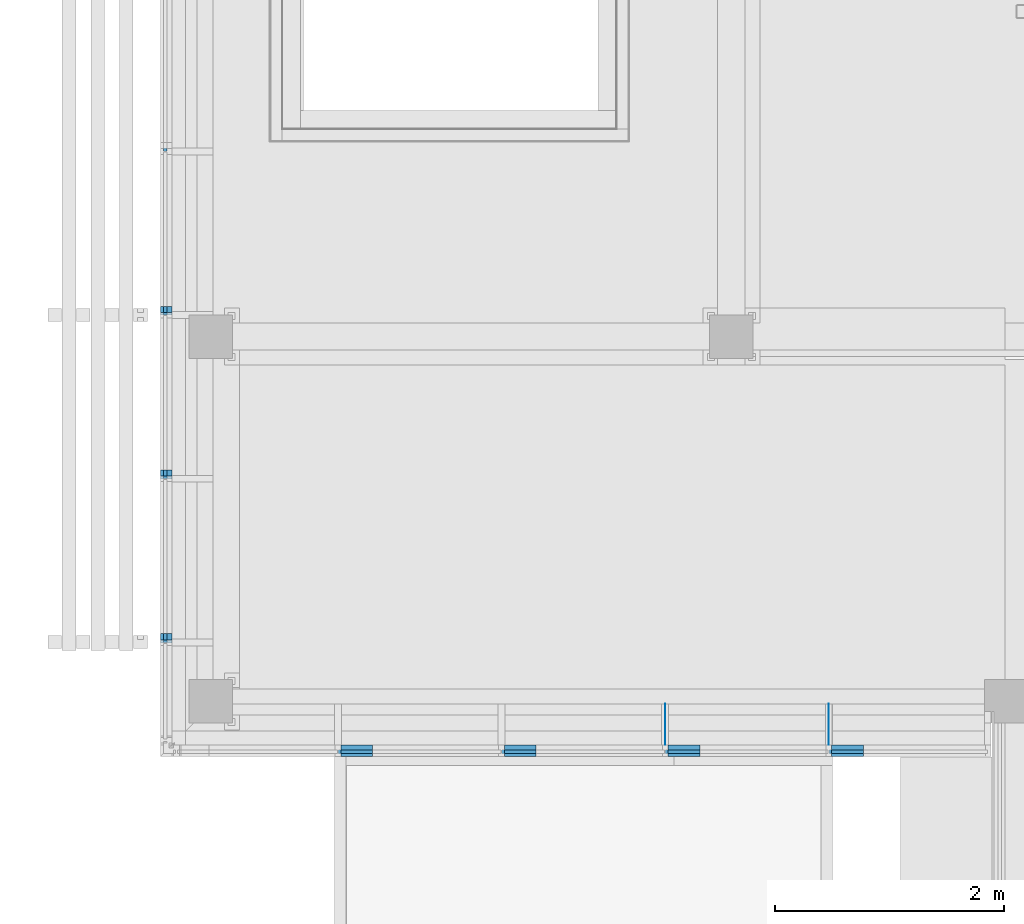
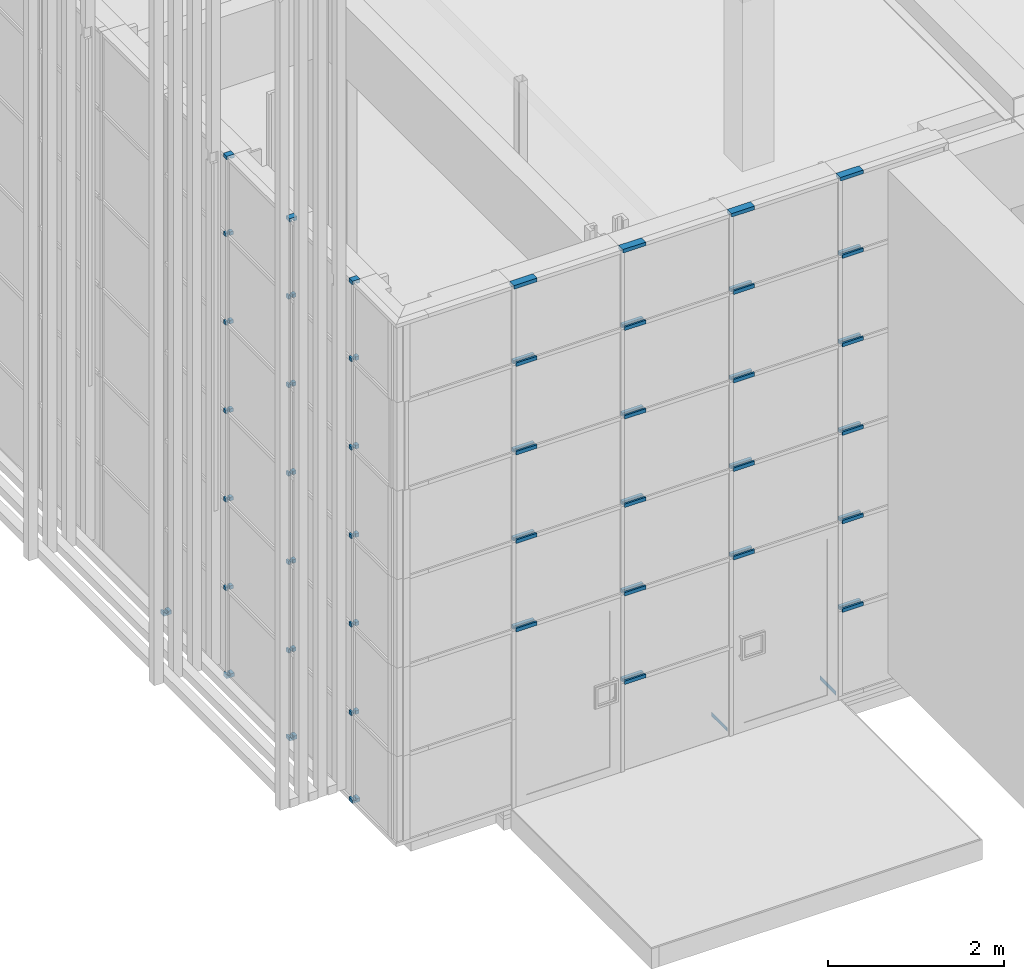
# One storey, part 41 of 260: 46 members, 2 elements without a shape of their own.
"""IFC2X3 building model written with IfcOpenShell, lengths in millimetres."""

from ifc_helpers import new_model, entity, si_unit, converted_unit, derived_unit, money_unit, direction, frame, origin_with_axes, place, context, subcontext, project, spatial, faceted_brep, source, transform, mapped, material, type_object, element, aggregate, save


model = new_model("IFC2X3")

# Units and contexts
model_context = context("Model", 3, precision=0.01, world=origin_with_axes(), true_north=direction((0.0, 1.0)))
body_context = subcontext(model_context, "Body", "Model", "MODEL_VIEW")
ifc_project = project(units=[si_unit("LENGTHUNIT", "METRE", prefix="MILLI"), si_unit("AREAUNIT", "SQUARE_METRE"), si_unit("VOLUMEUNIT", "CUBIC_METRE"), converted_unit("PLANEANGLEUNIT", "DEGREE", entity("IfcPlaneAngleMeasure", 0.0174532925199), si_unit("PLANEANGLEUNIT", "RADIAN"), dimensions=[0, 0, 0, 0, 0, 0, 0]), money_unit("EUR"), converted_unit("TIMEUNIT", "Year", entity("IfcTimeMeasure", 31556926.0), si_unit("TIMEUNIT", "SECOND"), dimensions=[0, 0, 1, 0, 0, 0, 0]), si_unit("MASSUNIT", "GRAM", prefix="KILO"), si_unit("THERMODYNAMICTEMPERATUREUNIT", "DEGREE_CELSIUS"), si_unit("LUMINOUSINTENSITYUNIT", "LUMEN"), si_unit("ENERGYUNIT", "JOULE", prefix="MEGA"), derived_unit("THERMALCONDUCTANCEUNIT", [(si_unit("POWERUNIT", "WATT"), 1), (si_unit("LENGTHUNIT", "METRE"), -1), (si_unit("THERMODYNAMICTEMPERATUREUNIT", "KELVIN"), -1)]), derived_unit("SPECIFICHEATCAPACITYUNIT", [(si_unit("ENERGYUNIT", "JOULE"), 1), (si_unit("MASSUNIT", "GRAM", prefix="KILO"), -1), (si_unit("THERMODYNAMICTEMPERATUREUNIT", "KELVIN"), -1)]), derived_unit("MASSDENSITYUNIT", [(si_unit("MASSUNIT", "GRAM", prefix="KILO"), 1), (si_unit("VOLUMEUNIT", "CUBIC_METRE"), -1)])], contexts=[model_context])

# Site, building, storey
site_placement = place(None, origin_with_axes())
site = spatial("IfcSite", under=ifc_project, at=site_placement, Name="Kolde pst 67a", CompositionType="ELEMENT")
building_placement = place(site_placement, origin_with_axes())
building = spatial("IfcBuilding", under=site, at=building_placement, Name="Riigigümnaasium", CompositionType="ELEMENT")
storey_placement = place(building_placement, origin_with_axes())
storey = spatial("IfcBuildingStorey", under=building, at=storey_placement, Name="1. korrus", CompositionType="ELEMENT", Elevation=0.0)

# Curtain wall, members
curtain_wall_type = type_object("IfcCurtainWallType", Name="Curtain Wall Type", PredefinedType="NOTDEFINED")
curtain_wall_1_placement = place(storey_placement, frame((47829.9854655, 8727.77020058, -0.000749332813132), z_axis=(0.0, 0.0, 1.0), x_axis=(1.0, 0.0, 0.0)))
curtain_wall_1 = element("IfcCurtainWall", 1, at=curtain_wall_1_placement, inside=storey, type_object=curtain_wall_type, Name="KLAASFASSAAD")
ifc_material_1 = material(Name="_METALL - alumiinium")
member_type_1 = type_object("IfcMemberType", Name="Transom Frame 50 x 100", PredefinedType="MEMBER")
shared_shape_1 = source(origin_with_axes(), body_context, "Body", "Brep", [
    faceted_brep([(5.0, -16.5, 80.8692382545), (5.0, 16.5, 80.8692382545), (25.0, 16.5, 80.8692382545), (25.0, 40.0, 80.8692382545), (-25.0, 40.0, 80.8692382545), (-25.0, 16.5, 80.8692382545), (-5.0, 16.5, 80.8692382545), (-5.0, -16.5, 80.8692382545), (-25.0, -16.5, 80.8692382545), (-25.0, -60.0, 80.8692382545), (25.0, -60.0, 80.8692382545), (25.0, -16.5, 80.8692382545), (5.0, -16.5, 25.0000000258), (5.0, 16.5, 24.9999999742), (25.0, 16.5, 24.9999999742), (25.0, 40.0, 24.9999999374), (-25.0, 40.0, 24.9999999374), (-25.0, 16.5, 24.9999999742), (-5.0, 16.5, 24.9999999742), (-5.0, -16.5, 25.0000000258), (-25.0, -16.5, 25.0000000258), (-25.0, -60.0, 25.0000000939), (25.0, -60.0, 25.0000000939), (25.0, -16.5, 25.0000000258)], [[[0, 1, 2, 3, 4, 5, 6, 7, 8, 9, 10, 11]], [[0, 12, 13, 1]], [[1, 13, 14, 2]], [[14, 15, 3, 2]], [[4, 3, 15, 16]], [[17, 5, 4, 16]], [[5, 17, 18, 6]], [[7, 6, 18, 19]], [[8, 7, 19, 20]], [[8, 20, 21, 9]], [[10, 9, 21, 22]], [[11, 10, 22, 23]], [[11, 23, 12, 0]], [[13, 12, 23, 22, 21, 20, 19, 18, 17, 16, 15, 14]]]),
])
member_1_placement = place(curtain_wall_1_placement, frame((4.6019721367e-07, -504.830153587, 3690.00074933), z_axis=(-9.11580353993e-10, 1.0, 0.0), x_axis=(0.0, 0.0, 1.0)))
member_1 = element("IfcMember", 2, at=member_1_placement, type_object=member_type_1, material=ifc_material_1, Name="RF RAAM HOR-760", ObjectType="MEMBER", context=body_context, shape_type="MappedRepresentation", body=[
    mapped(shared_shape_1, transform((0.0, 0.0, 0.0), x_axis=(-1.0, 0.0, 0.0), y_axis=(0.0, -1.0, 9.11580231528e-10), z_axis=(0.0, 9.11580231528e-10, 1.0))),
])
member_2_placement = place(curtain_wall_1_placement, frame((4.6019721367e-07, -504.83015347, 2460.00074933), z_axis=(-9.11580355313e-10, 1.0, 0.0), x_axis=(0.0, 0.0, 1.0)))
member_2 = element("IfcMember", 3, at=member_2_placement, type_object=member_type_1, material=ifc_material_1, Name="RF RAAM HOR-669", ObjectType="MEMBER", context=body_context, shape_type="MappedRepresentation", body=[
    mapped(shared_shape_1, transform((0.0, 0.0, 0.0), x_axis=(-1.0, 0.0, 0.0), y_axis=(0.0, -1.0, 9.11580232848e-10), z_axis=(0.0, 9.11580232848e-10, 1.0))),
])
member_3_placement = place(curtain_wall_1_placement, frame((4.6019721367e-07, -504.83015347, 1230.00074933), z_axis=(-9.11580355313e-10, 1.0, 0.0), x_axis=(0.0, 0.0, 1.0)))
member_3 = element("IfcMember", 4, at=member_3_placement, type_object=member_type_1, material=ifc_material_1, Name="RF RAAM HOR-669", ObjectType="MEMBER", context=body_context, shape_type="MappedRepresentation", body=[
    mapped(shared_shape_1, transform((0.0, 0.0, 0.0), x_axis=(-1.0, 0.0, 0.0), y_axis=(0.0, -1.0, 9.11580232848e-10), z_axis=(0.0, 9.11580232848e-10, 1.0))),
])
member_4_placement = place(curtain_wall_1_placement, frame((4.6019721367e-07, -504.830155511, 4920.00074933), z_axis=(-9.11580332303e-10, 1.0, 0.0), x_axis=(0.0, 0.0, 1.0)))
member_4 = element("IfcMember", 5, at=member_4_placement, type_object=member_type_1, material=ifc_material_1, Name="RF RAAM HOR-711", ObjectType="MEMBER", context=body_context, shape_type="MappedRepresentation", body=[
    mapped(shared_shape_1, transform((0.0, 0.0, 0.0), x_axis=(-1.0, 0.0, 0.0), y_axis=(0.0, -1.0, 9.11580209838e-10), z_axis=(0.0, 9.11580209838e-10, 1.0))),
])
member_5_placement = place(curtain_wall_1_placement, frame((4.6019721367e-07, -504.830155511, 6150.00074933), z_axis=(-9.11580332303e-10, 1.0, 0.0), x_axis=(0.0, 0.0, 1.0)))
member_5 = element("IfcMember", 6, at=member_5_placement, type_object=member_type_1, material=ifc_material_1, Name="RF RAAM HOR-723", ObjectType="MEMBER", context=body_context, shape_type="MappedRepresentation", body=[
    mapped(shared_shape_1, transform((0.0, 0.0, 0.0), x_axis=(-1.0, 0.0, 0.0), y_axis=(0.0, -1.0, 9.11580209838e-10), z_axis=(0.0, 9.11580209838e-10, 1.0))),
])
member_type_2 = type_object("IfcMemberType", Name="Boundary Frame 50 x 100", PredefinedType="MEMBER")
shared_shape_2 = source(origin_with_axes(), body_context, "Body", "Brep", [
    faceted_brep([(-30.0, -16.5, 80.8692386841), (-50.0, -16.5, 80.8692386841), (-50.0, -60.0, 80.8692386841), (0.0, -60.0, 80.8692386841), (0.0, 40.0, 80.8692386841), (-50.0, 40.0, 80.8692386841), (-50.0, 16.5, 80.8692386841), (-30.0, 16.5, 80.8692386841), (-30.0, -16.5, 0.0), (-50.0, -16.5, 0.0), (-50.0, -60.0, 0.0), (0.0, -60.0, 0.0), (0.0, 40.0, 0.0), (-50.0, 40.0, 0.0), (-50.0, 16.5, 0.0), (-30.0, 16.5, 0.0)], [[[0, 1, 2, 3, 4, 5, 6, 7]], [[0, 8, 9, 1]], [[9, 10, 2, 1]], [[10, 11, 3, 2]], [[11, 12, 4, 3]], [[12, 13, 5, 4]], [[6, 5, 13, 14]], [[14, 15, 7, 6]], [[7, 15, 8, 0]], [[8, 15, 14, 13, 12, 11, 10, 9]]]),
])
member_6_placement = place(curtain_wall_1_placement, frame((4.6019721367e-07, -504.830154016, 0.0), z_axis=(-9.1158034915e-10, 1.0, 0.0), x_axis=(0.0, 0.0, 1.0)))
member_6 = element("IfcMember", 7, at=member_6_placement, type_object=member_type_2, material=ifc_material_1, Name="RF RAAM SERV-553", ObjectType="MEMBER", context=body_context, shape_type="MappedRepresentation", body=[
    mapped(shared_shape_2, transform((0.0, 0.0, 0.0), x_axis=(-1.0, 0.0, 0.0), y_axis=(0.0, -1.0, 9.11580226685e-10), z_axis=(0.0, 9.11580226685e-10, 1.0))),
])
member_7_placement = place(curtain_wall_1_placement, frame((3.86478404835e-07, -423.960915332, 7259.99994321), z_axis=(9.11580373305e-10, -1.0, 0.0), x_axis=(0.0, 0.0, -1.0)))
member_7 = element("IfcMember", 8, at=member_7_placement, type_object=member_type_2, material=ifc_material_1, Name="RF RAAM SERV-582", ObjectType="MEMBER", context=body_context, shape_type="MappedRepresentation", body=[
    mapped(shared_shape_2, transform((0.0, 0.0, 0.0), x_axis=(-1.0, 0.0, 0.0), y_axis=(0.0, -1.0, -9.11580373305e-10), z_axis=(0.0, -9.11580373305e-10, 1.0))),
])
shared_shape_3 = source(origin_with_axes(), body_context, "Body", "Brep", [
    faceted_brep([(-30.0, -16.5, 77.2480145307), (-50.0, -16.5, 77.2480145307), (-50.0, -60.0, 77.2480145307), (0.0, -60.0, 77.2480145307), (0.0, 40.0, 77.2480145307), (-50.0, 40.0, 77.2480145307), (-50.0, 16.5, 77.2480145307), (-30.0, 16.5, 77.2480145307), (-30.0, -16.5, 0.0), (-50.0, -16.5, 0.0), (-50.0, -60.0, 0.0), (0.0, -60.0, 0.0), (0.0, 40.0, 0.0), (-50.0, 40.0, 0.0), (-50.0, 16.5, 0.0), (-30.0, 16.5, 0.0)], [[[0, 1, 2, 3, 4, 5, 6, 7]], [[0, 8, 9, 1]], [[9, 10, 2, 1]], [[10, 11, 3, 2]], [[11, 12, 4, 3]], [[12, 13, 5, 4]], [[6, 5, 13, 14]], [[14, 15, 7, 6]], [[7, 15, 8, 0]], [[8, 15, 14, 13, 12, 11, 10, 9]]]),
])
member_8_placement = place(curtain_wall_1_placement, frame((-8.46711145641e-07, 928.791070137, 0.0), z_axis=(-9.1163366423e-10, 1.0, 0.0), x_axis=(0.0, 0.0, 1.0)))
member_8 = element("IfcMember", 9, at=member_8_placement, type_object=member_type_2, material=ifc_material_1, Name="RF RAAM SERV-554", ObjectType="MEMBER", context=body_context, shape_type="MappedRepresentation", body=[
    mapped(shared_shape_3, transform((0.0, 0.0, 0.0), x_axis=(-1.0, 0.0, 0.0), y_axis=(0.0, -1.0, 9.11633541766e-10), z_axis=(0.0, 9.11633541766e-10, 1.0))),
])
member_9_placement = place(curtain_wall_1_placement, frame((-2.15032258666e-06, 2358.79108085, 0.0), z_axis=(-9.11633790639e-10, 1.0, 0.0), x_axis=(0.0, 0.0, 1.0)))
member_9 = element("IfcMember", 10, at=member_9_placement, type_object=member_type_2, material=ifc_material_1, Name="RF RAAM SERV-555", ObjectType="MEMBER", context=body_context, shape_type="MappedRepresentation", body=[
    mapped(shared_shape_3, transform((0.0, 0.0, 0.0), x_axis=(-1.0, 0.0, 0.0), y_axis=(0.0, -1.0, 9.11633668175e-10), z_axis=(0.0, 9.11633668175e-10, 1.0))),
])
member_10_placement = place(curtain_wall_1_placement, frame((-3.45392692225e-06, 3788.79107025, 0.0), z_axis=(-9.11633665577e-10, 1.0, 0.0), x_axis=(0.0, 0.0, 1.0)))
member_10 = element("IfcMember", 11, at=member_10_placement, type_object=member_type_2, material=ifc_material_1, Name="RF RAAM SERV-556", ObjectType="MEMBER", context=body_context, shape_type="MappedRepresentation", body=[
    mapped(shared_shape_3, transform((0.0, 0.0, 0.0), x_axis=(-1.0, 0.0, 0.0), y_axis=(0.0, -1.0, 9.11633543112e-10), z_axis=(0.0, 9.11633543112e-10, 1.0))),
])
member_11_placement = place(curtain_wall_1_placement, frame((-2.2207444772e-06, 2436.03908467, 7259.99994321), z_axis=(9.11633789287e-10, -1.0, 0.0), x_axis=(0.0, 0.0, -1.0)))
member_11 = element("IfcMember", 12, at=member_11_placement, type_object=member_type_2, material=ifc_material_1, Name="RF RAAM SERV-580", ObjectType="MEMBER", context=body_context, shape_type="MappedRepresentation", body=[
    mapped(shared_shape_3, transform((0.0, 0.0, 0.0), x_axis=(-1.0, 0.0, 0.0), y_axis=(0.0, -1.0, -9.11633789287e-10), z_axis=(0.0, -9.11633789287e-10, 1.0))),
])
member_12_placement = place(curtain_wall_1_placement, frame((-9.17133036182e-07, 1006.03908467, 7259.99994321), z_axis=(9.11633664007e-10, -1.0, 0.0), x_axis=(0.0, 0.0, -1.0)))
member_12 = element("IfcMember", 13, at=member_12_placement, type_object=member_type_2, material=ifc_material_1, Name="RF RAAM SERV-581", ObjectType="MEMBER", context=body_context, shape_type="MappedRepresentation", body=[
    mapped(shared_shape_3, transform((0.0, 0.0, 0.0), x_axis=(-1.0, 0.0, 0.0), y_axis=(0.0, -1.0, -9.11633664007e-10), z_axis=(0.0, -9.11633664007e-10, 1.0))),
])
shared_shape_4 = source(origin_with_axes(), body_context, "Body", "Brep", [
    faceted_brep([(5.0, -16.5, 77.2480166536), (5.0, 16.5, 77.2480166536), (25.0, 16.5, 77.2480166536), (25.0, 40.0, 77.2480166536), (-25.0, 40.0, 77.2480166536), (-25.0, 16.5, 77.2480166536), (-5.0, 16.5, 77.2480166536), (-5.0, -16.5, 77.2480166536), (-25.0, -16.5, 77.2480166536), (-25.0, -60.0, 77.2480166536), (25.0, -60.0, 77.2480166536), (25.0, -16.5, 77.2480166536), (5.0, -16.5, 25.0), (5.0, 16.5, 25.0), (25.0, 16.5, 25.0), (25.0, 40.0, 25.0), (-25.0, 40.0, 25.0), (-25.0, 16.5, 25.0), (-5.0, 16.5, 25.0), (-5.0, -16.5, 25.0), (-25.0, -16.5, 25.0), (-25.0, -60.0, 25.0), (25.0, -60.0, 25.0), (25.0, -16.5, 25.0)], [[[0, 1, 2, 3, 4, 5, 6, 7, 8, 9, 10, 11]], [[0, 12, 13, 1]], [[1, 13, 14, 2]], [[14, 15, 3, 2]], [[4, 3, 15, 16]], [[17, 5, 4, 16]], [[5, 17, 18, 6]], [[7, 6, 18, 19]], [[8, 7, 19, 20]], [[8, 20, 21, 9]], [[10, 9, 21, 22]], [[11, 10, 22, 23]], [[11, 23, 12, 0]], [[13, 12, 23, 22, 21, 20, 19, 18, 17, 16, 15, 14]]]),
])
member_13_placement = place(curtain_wall_1_placement, frame((-8.46711145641e-07, 928.791068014, 1230.00074933), z_axis=(-9.11633639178e-10, 1.0, 0.0), x_axis=(0.0, 0.0, 1.0)))
member_13 = element("IfcMember", 14, at=member_13_placement, type_object=member_type_1, material=ifc_material_1, Name="RF RAAM HOR-669", ObjectType="MEMBER", context=body_context, shape_type="MappedRepresentation", body=[
    mapped(shared_shape_4, transform((0.0, 0.0, 0.0), x_axis=(-1.0, 0.0, 0.0), y_axis=(0.0, -1.0, 9.11633516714e-10), z_axis=(0.0, 9.11633516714e-10, 1.0))),
])
member_14_placement = place(curtain_wall_1_placement, frame((-2.15032258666e-06, 2358.79106801, 1230.00074933), z_axis=(-9.11633639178e-10, 1.0, 0.0), x_axis=(0.0, 0.0, 1.0)))
member_14 = element("IfcMember", 15, at=member_14_placement, type_object=member_type_1, material=ifc_material_1, Name="RF RAAM HOR-669", ObjectType="MEMBER", context=body_context, shape_type="MappedRepresentation", body=[
    mapped(shared_shape_4, transform((0.0, 0.0, 0.0), x_axis=(-1.0, 0.0, 0.0), y_axis=(0.0, -1.0, 9.11633516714e-10), z_axis=(0.0, 9.11633516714e-10, 1.0))),
])
member_15_placement = place(curtain_wall_1_placement, frame((-8.46711145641e-07, 928.791068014, 2460.00074933), z_axis=(-9.11633639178e-10, 1.0, 0.0), x_axis=(0.0, 0.0, 1.0)))
member_15 = element("IfcMember", 16, at=member_15_placement, type_object=member_type_1, material=ifc_material_1, Name="RF RAAM HOR-669", ObjectType="MEMBER", context=body_context, shape_type="MappedRepresentation", body=[
    mapped(shared_shape_4, transform((0.0, 0.0, 0.0), x_axis=(-1.0, 0.0, 0.0), y_axis=(0.0, -1.0, 9.11633516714e-10), z_axis=(0.0, 9.11633516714e-10, 1.0))),
])
member_16_placement = place(curtain_wall_1_placement, frame((-2.15032258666e-06, 2358.79106801, 2460.00074933), z_axis=(-9.11633639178e-10, 1.0, 0.0), x_axis=(0.0, 0.0, 1.0)))
member_16 = element("IfcMember", 17, at=member_16_placement, type_object=member_type_1, material=ifc_material_1, Name="RF RAAM HOR-669", ObjectType="MEMBER", context=body_context, shape_type="MappedRepresentation", body=[
    mapped(shared_shape_4, transform((0.0, 0.0, 0.0), x_axis=(-1.0, 0.0, 0.0), y_axis=(0.0, -1.0, 9.11633516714e-10), z_axis=(0.0, 9.11633516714e-10, 1.0))),
])
member_17_placement = place(curtain_wall_1_placement, frame((-8.46711145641e-07, 928.791068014, 3690.00074933), z_axis=(-9.11633639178e-10, 1.0, 0.0), x_axis=(0.0, 0.0, 1.0)))
member_17 = element("IfcMember", 18, at=member_17_placement, type_object=member_type_1, material=ifc_material_1, Name="RF RAAM HOR-758", ObjectType="MEMBER", context=body_context, shape_type="MappedRepresentation", body=[
    mapped(shared_shape_4, transform((0.0, 0.0, 0.0), x_axis=(-1.0, 0.0, 0.0), y_axis=(0.0, -1.0, 9.11633516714e-10), z_axis=(0.0, 9.11633516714e-10, 1.0))),
])
member_18_placement = place(curtain_wall_1_placement, frame((-2.15032258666e-06, 2358.79106801, 3690.00074933), z_axis=(-9.11633639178e-10, 1.0, 0.0), x_axis=(0.0, 0.0, 1.0)))
member_18 = element("IfcMember", 19, at=member_18_placement, type_object=member_type_1, material=ifc_material_1, Name="RF RAAM HOR-757", ObjectType="MEMBER", context=body_context, shape_type="MappedRepresentation", body=[
    mapped(shared_shape_4, transform((0.0, 0.0, 0.0), x_axis=(-1.0, 0.0, 0.0), y_axis=(0.0, -1.0, 9.11633516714e-10), z_axis=(0.0, 9.11633516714e-10, 1.0))),
])
member_19_placement = place(curtain_wall_1_placement, frame((-8.46711145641e-07, 928.791068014, 4920.00074933), z_axis=(-9.11633639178e-10, 1.0, 0.0), x_axis=(0.0, 0.0, 1.0)))
member_19 = element("IfcMember", 20, at=member_19_placement, type_object=member_type_1, material=ifc_material_1, Name="RF RAAM HOR-712", ObjectType="MEMBER", context=body_context, shape_type="MappedRepresentation", body=[
    mapped(shared_shape_4, transform((0.0, 0.0, 0.0), x_axis=(-1.0, 0.0, 0.0), y_axis=(0.0, -1.0, 9.11633516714e-10), z_axis=(0.0, 9.11633516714e-10, 1.0))),
])
member_20_placement = place(curtain_wall_1_placement, frame((-2.15032258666e-06, 2358.79106801, 4920.00074933), z_axis=(-9.11633639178e-10, 1.0, 0.0), x_axis=(0.0, 0.0, 1.0)))
member_20 = element("IfcMember", 21, at=member_20_placement, type_object=member_type_1, material=ifc_material_1, Name="RF RAAM HOR-713", ObjectType="MEMBER", context=body_context, shape_type="MappedRepresentation", body=[
    mapped(shared_shape_4, transform((0.0, 0.0, 0.0), x_axis=(-1.0, 0.0, 0.0), y_axis=(0.0, -1.0, 9.11633516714e-10), z_axis=(0.0, 9.11633516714e-10, 1.0))),
])
member_21_placement = place(curtain_wall_1_placement, frame((-8.46711145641e-07, 928.791068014, 6150.00074933), z_axis=(-9.11633639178e-10, 1.0, 0.0), x_axis=(0.0, 0.0, 1.0)))
member_21 = element("IfcMember", 22, at=member_21_placement, type_object=member_type_1, material=ifc_material_1, Name="RF RAAM HOR-724", ObjectType="MEMBER", context=body_context, shape_type="MappedRepresentation", body=[
    mapped(shared_shape_4, transform((0.0, 0.0, 0.0), x_axis=(-1.0, 0.0, 0.0), y_axis=(0.0, -1.0, 9.11633516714e-10), z_axis=(0.0, 9.11633516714e-10, 1.0))),
])
member_22_placement = place(curtain_wall_1_placement, frame((-2.15032258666e-06, 2358.79106801, 6150.00074933), z_axis=(-9.11633639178e-10, 1.0, 0.0), x_axis=(0.0, 0.0, 1.0)))
member_22 = element("IfcMember", 23, at=member_22_placement, type_object=member_type_1, material=ifc_material_1, Name="RF RAAM HOR-725", ObjectType="MEMBER", context=body_context, shape_type="MappedRepresentation", body=[
    mapped(shared_shape_4, transform((0.0, 0.0, 0.0), x_axis=(-1.0, 0.0, 0.0), y_axis=(0.0, -1.0, 9.11633516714e-10), z_axis=(0.0, 9.11633516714e-10, 1.0))),
])
shared_shape_5 = source(origin_with_axes(), body_context, "Body", "Brep", [
    faceted_brep([(5.0, -16.5, 277.908331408), (5.0, 16.5, 277.90833198), (25.0, 16.5, 277.90833198), (25.0, 40.0, 277.908332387), (-25.0, 40.0, 277.908332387), (-25.0, 16.5, 277.90833198), (-5.0, 16.5, 277.90833198), (-5.0, -16.5, 277.908331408), (-25.0, -16.5, 277.908331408), (-25.0, -60.0, 277.908330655), (25.0, -60.0, 277.908330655), (25.0, -16.5, 277.908331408), (5.0, -16.5, 0.0), (5.0, 16.5, 0.0), (25.0, 16.5, 0.0), (25.0, 40.0, 0.0), (-25.0, 40.0, 0.0), (-25.0, 16.5, 0.0), (-5.0, 16.5, 0.0), (-5.0, -16.5, 0.0), (-25.0, -16.5, 0.0), (-25.0, -60.0, 0.0), (25.0, -60.0, 0.0), (25.0, -16.5, 0.0)], [[[0, 1, 2, 3, 4, 5, 6, 7, 8, 9, 10, 11]], [[0, 12, 13, 1]], [[1, 13, 14, 2]], [[14, 15, 3, 2]], [[3, 15, 16, 4]], [[17, 5, 4, 16]], [[5, 17, 18, 6]], [[7, 6, 18, 19]], [[8, 7, 19, 20]], [[8, 20, 21, 9]], [[9, 21, 22, 10]], [[11, 10, 22, 23]], [[11, 23, 12, 0]], [[13, 12, 23, 22, 21, 20, 19, 18, 17, 16, 15, 14]]]),
])
member_23_placement = place(curtain_wall_1_placement, frame((6103.56558433, -1457.77175342, 4920.00074933), z_axis=(-1.0, 2.70881140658e-07, 0.0), x_axis=(0.0, 0.0, 1.0)))
member_23 = element("IfcMember", 24, at=member_23_placement, type_object=member_type_1, material=ifc_material_1, Name="RF RAAM HOR-843", ObjectType="MEMBER", context=body_context, shape_type="MappedRepresentation", body=[
    mapped(shared_shape_5, transform((0.0, 0.0, 0.0), x_axis=(-1.0, 0.0, 0.0), y_axis=(0.0, -1.0, 0.0), z_axis=(0.0, 0.0, 1.0))),
])
member_24_placement = place(curtain_wall_1_placement, frame((6103.56558433, -1457.77175342, 6150.00074933), z_axis=(-1.0, 2.70881142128e-07, 0.0), x_axis=(0.0, 0.0, 1.0)))
member_24 = element("IfcMember", 25, at=member_24_placement, type_object=member_type_1, material=ifc_material_1, Name="RF RAAM HOR-844", ObjectType="MEMBER", context=body_context, shape_type="MappedRepresentation", body=[
    mapped(shared_shape_5, transform((0.0, 0.0, 0.0), x_axis=(-1.0, 0.0, 0.0), y_axis=(0.0, -1.0, 0.0), z_axis=(0.0, 0.0, 1.0))),
])
member_25_placement = place(curtain_wall_1_placement, frame((4673.56558433, -1457.77136606, 4920.00074933), z_axis=(-1.0, 2.70881140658e-07, 0.0), x_axis=(0.0, 0.0, 1.0)))
member_25 = element("IfcMember", 26, at=member_25_placement, type_object=member_type_1, material=ifc_material_1, Name="RF RAAM HOR-845", ObjectType="MEMBER", context=body_context, shape_type="MappedRepresentation", body=[
    mapped(shared_shape_5, transform((0.0, 0.0, 0.0), x_axis=(-1.0, 0.0, 0.0), y_axis=(0.0, -1.0, 0.0), z_axis=(0.0, 0.0, 1.0))),
])
member_26_placement = place(curtain_wall_1_placement, frame((4673.56558433, -1457.77136606, 6150.00074933), z_axis=(-1.0, 2.70881140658e-07, 0.0), x_axis=(0.0, 0.0, 1.0)))
member_26 = element("IfcMember", 27, at=member_26_placement, type_object=member_type_1, material=ifc_material_1, Name="RF RAAM HOR-846", ObjectType="MEMBER", context=body_context, shape_type="MappedRepresentation", body=[
    mapped(shared_shape_5, transform((0.0, 0.0, 0.0), x_axis=(-1.0, 0.0, 0.0), y_axis=(0.0, -1.0, 0.0), z_axis=(0.0, 0.0, 1.0))),
])
member_27_placement = place(curtain_wall_1_placement, frame((3243.56558433, -1457.7709787, 4920.00074933), z_axis=(-1.0, 2.70881140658e-07, 0.0), x_axis=(0.0, 0.0, 1.0)))
member_27 = element("IfcMember", 28, at=member_27_placement, type_object=member_type_1, material=ifc_material_1, Name="RF RAAM HOR-847", ObjectType="MEMBER", context=body_context, shape_type="MappedRepresentation", body=[
    mapped(shared_shape_5, transform((0.0, 0.0, 0.0), x_axis=(-1.0, 0.0, 0.0), y_axis=(0.0, -1.0, 0.0), z_axis=(0.0, 0.0, 1.0))),
])
member_28_placement = place(curtain_wall_1_placement, frame((3243.56558433, -1457.7709787, 6150.00074933), z_axis=(-1.0, 2.70881140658e-07, 0.0), x_axis=(0.0, 0.0, 1.0)))
member_28 = element("IfcMember", 29, at=member_28_placement, type_object=member_type_1, material=ifc_material_1, Name="RF RAAM HOR-848", ObjectType="MEMBER", context=body_context, shape_type="MappedRepresentation", body=[
    mapped(shared_shape_5, transform((0.0, 0.0, 0.0), x_axis=(-1.0, 0.0, 0.0), y_axis=(0.0, -1.0, 0.0), z_axis=(0.0, 0.0, 1.0))),
])
member_29_placement = place(curtain_wall_1_placement, frame((1813.56558433, -1457.77059134, 4920.00074933), z_axis=(-1.0, 2.70881140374e-07, 0.0), x_axis=(0.0, 0.0, 1.0)))
member_29 = element("IfcMember", 30, at=member_29_placement, type_object=member_type_1, material=ifc_material_1, Name="RF RAAM HOR-849", ObjectType="MEMBER", context=body_context, shape_type="MappedRepresentation", body=[
    mapped(shared_shape_5, transform((0.0, 0.0, 0.0), x_axis=(-1.0, 0.0, 0.0), y_axis=(0.0, -1.0, 0.0), z_axis=(0.0, 0.0, 1.0))),
])
member_30_placement = place(curtain_wall_1_placement, frame((1813.56558433, -1457.77059134, 6150.00074933), z_axis=(-1.0, 2.70881140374e-07, 0.0), x_axis=(0.0, 0.0, 1.0)))
member_30 = element("IfcMember", 31, at=member_30_placement, type_object=member_type_1, material=ifc_material_1, Name="RF RAAM HOR-850", ObjectType="MEMBER", context=body_context, shape_type="MappedRepresentation", body=[
    mapped(shared_shape_5, transform((0.0, 0.0, 0.0), x_axis=(-1.0, 0.0, 0.0), y_axis=(0.0, -1.0, 0.0), z_axis=(0.0, 0.0, 1.0))),
])
member_31_placement = place(curtain_wall_1_placement, frame((3243.56558433, -1457.7709787, 2460.00074933), z_axis=(-1.0, 2.70881140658e-07, 0.0), x_axis=(0.0, 0.0, 1.0)))
member_31 = element("IfcMember", 32, at=member_31_placement, type_object=member_type_1, material=ifc_material_1, Name="RF RAAM HOR-946", ObjectType="MEMBER", context=body_context, shape_type="MappedRepresentation", body=[
    mapped(shared_shape_5, transform((0.0, 0.0, 0.0), x_axis=(-1.0, 0.0, 0.0), y_axis=(0.0, -1.0, 0.0), z_axis=(0.0, 0.0, 1.0))),
])
member_32_placement = place(curtain_wall_1_placement, frame((3243.56558433, -1457.7709787, 3690.00074933), z_axis=(-1.0, 2.70881140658e-07, 0.0), x_axis=(0.0, 0.0, 1.0)))
member_32 = element("IfcMember", 33, at=member_32_placement, type_object=member_type_1, material=ifc_material_1, Name="RF RAAM HOR-947", ObjectType="MEMBER", context=body_context, shape_type="MappedRepresentation", body=[
    mapped(shared_shape_5, transform((0.0, 0.0, 0.0), x_axis=(-1.0, 0.0, 0.0), y_axis=(0.0, -1.0, 0.0), z_axis=(0.0, 0.0, 1.0))),
])
member_33_placement = place(curtain_wall_1_placement, frame((4673.56558433, -1457.77136606, 2460.00074933), z_axis=(-1.0, 2.70881140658e-07, 0.0), x_axis=(0.0, 0.0, 1.0)))
member_33 = element("IfcMember", 34, at=member_33_placement, type_object=member_type_1, material=ifc_material_1, Name="RF RAAM HOR-948", ObjectType="MEMBER", context=body_context, shape_type="MappedRepresentation", body=[
    mapped(shared_shape_5, transform((0.0, 0.0, 0.0), x_axis=(-1.0, 0.0, 0.0), y_axis=(0.0, -1.0, 0.0), z_axis=(0.0, 0.0, 1.0))),
])
member_34_placement = place(curtain_wall_1_placement, frame((4673.56558433, -1457.77136606, 3690.00074933), z_axis=(-1.0, 2.70881140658e-07, 0.0), x_axis=(0.0, 0.0, 1.0)))
member_34 = element("IfcMember", 35, at=member_34_placement, type_object=member_type_1, material=ifc_material_1, Name="RF RAAM HOR-949", ObjectType="MEMBER", context=body_context, shape_type="MappedRepresentation", body=[
    mapped(shared_shape_5, transform((0.0, 0.0, 0.0), x_axis=(-1.0, 0.0, 0.0), y_axis=(0.0, -1.0, 0.0), z_axis=(0.0, 0.0, 1.0))),
])
member_35_placement = place(curtain_wall_1_placement, frame((6103.56558433, -1457.77175342, 2460.00074933), z_axis=(-1.0, 2.70881140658e-07, 0.0), x_axis=(0.0, 0.0, 1.0)))
member_35 = element("IfcMember", 36, at=member_35_placement, type_object=member_type_1, material=ifc_material_1, Name="RF RAAM HOR-951", ObjectType="MEMBER", context=body_context, shape_type="MappedRepresentation", body=[
    mapped(shared_shape_5, transform((0.0, 0.0, 0.0), x_axis=(-1.0, 0.0, 0.0), y_axis=(0.0, -1.0, 0.0), z_axis=(0.0, 0.0, 1.0))),
])
member_36_placement = place(curtain_wall_1_placement, frame((6103.56558433, -1457.77175342, 3690.00074933), z_axis=(-1.0, 2.70881140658e-07, 0.0), x_axis=(0.0, 0.0, 1.0)))
member_36 = element("IfcMember", 37, at=member_36_placement, type_object=member_type_1, material=ifc_material_1, Name="RF RAAM HOR-952", ObjectType="MEMBER", context=body_context, shape_type="MappedRepresentation", body=[
    mapped(shared_shape_5, transform((0.0, 0.0, 0.0), x_axis=(-1.0, 0.0, 0.0), y_axis=(0.0, -1.0, 0.0), z_axis=(0.0, 0.0, 1.0))),
])
member_37_placement = place(curtain_wall_1_placement, frame((6103.56558433, -1457.77175342, 1230.00074933), z_axis=(-1.0, 2.70881142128e-07, 0.0), x_axis=(0.0, 0.0, 1.0)))
member_37 = element("IfcMember", 38, at=member_37_placement, type_object=member_type_1, material=ifc_material_1, Name="RF RAAM HOR-881", ObjectType="MEMBER", context=body_context, shape_type="MappedRepresentation", body=[
    mapped(shared_shape_5, transform((0.0, 0.0, 0.0), x_axis=(-1.0, 0.0, 0.0), y_axis=(0.0, -1.0, 0.0), z_axis=(0.0, 0.0, 1.0))),
])
member_38_placement = place(curtain_wall_1_placement, frame((1813.56558433, -1457.77059134, 3690.00074933), z_axis=(-1.0, 2.70881140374e-07, 0.0), x_axis=(0.0, 0.0, 1.0)))
member_38 = element("IfcMember", 39, at=member_38_placement, type_object=member_type_1, material=ifc_material_1, Name="RF RAAM HOR-954", ObjectType="MEMBER", context=body_context, shape_type="MappedRepresentation", body=[
    mapped(shared_shape_5, transform((0.0, 0.0, 0.0), x_axis=(-1.0, 0.0, 0.0), y_axis=(0.0, -1.0, 0.0), z_axis=(0.0, 0.0, 1.0))),
])
member_39_placement = place(curtain_wall_1_placement, frame((1813.56558433, -1457.77059134, 2460.00074933), z_axis=(-1.0, 2.70881140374e-07, 0.0), x_axis=(0.0, 0.0, 1.0)))
member_39 = element("IfcMember", 40, at=member_39_placement, type_object=member_type_1, material=ifc_material_1, Name="RF RAAM HOR-955", ObjectType="MEMBER", context=body_context, shape_type="MappedRepresentation", body=[
    mapped(shared_shape_5, transform((0.0, 0.0, 0.0), x_axis=(-1.0, 0.0, 0.0), y_axis=(0.0, -1.0, 0.0), z_axis=(0.0, 0.0, 1.0))),
])
member_40_placement = place(curtain_wall_1_placement, frame((3243.56558433, -1457.7709787, 1230.00074933), z_axis=(-1.0, 2.70881141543e-07, 0.0), x_axis=(0.0, 0.0, 1.0)))
member_40 = element("IfcMember", 41, at=member_40_placement, type_object=member_type_1, material=ifc_material_1, Name="RF RAAM HOR-882", ObjectType="MEMBER", context=body_context, shape_type="MappedRepresentation", body=[
    mapped(shared_shape_5, transform((0.0, 0.0, 0.0), x_axis=(-1.0, 0.0, 0.0), y_axis=(0.0, -1.0, 0.0), z_axis=(0.0, 0.0, 1.0))),
])
shared_shape_6 = source(origin_with_axes(), body_context, "Body", "Brep", [
    faceted_brep([(-30.0, -16.5, 302.908354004), (-50.0, -16.5, 302.908354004), (-50.0, -60.0, 302.908354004), (0.0, -60.0, 302.908354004), (0.0, 40.0, 302.908354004), (-50.0, 40.0, 302.908354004), (-50.0, 16.5, 302.908354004), (-30.0, 16.5, 302.908354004), (-30.0, -16.5, 0.0), (-50.0, -16.5, 0.0), (-50.0, -60.0, 0.0), (0.0, -60.0, 0.0), (0.0, 40.0, 0.0), (-50.0, 40.0, 0.0), (-50.0, 16.5, 0.0), (-30.0, 16.5, 0.0)], [[[0, 1, 2, 3, 4, 5, 6, 7]], [[0, 8, 9, 1]], [[9, 10, 2, 1]], [[10, 11, 3, 2]], [[11, 12, 4, 3]], [[12, 13, 5, 4]], [[6, 5, 13, 14]], [[14, 15, 7, 6]], [[7, 15, 8, 0]], [[8, 15, 14, 13, 12, 11, 10, 9]]]),
])
member_41_placement = place(curtain_wall_1_placement, frame((5800.65723234, -1457.77167136, 7259.99973712), z_axis=(1.0, -2.70881143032e-07, -1.99385279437e-08), x_axis=(-1.99385279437e-08, 0.0, -1.0)))
member_41 = element("IfcMember", 42, at=member_41_placement, type_object=member_type_2, material=ifc_material_1, Name="RF RAAM SERV-545", ObjectType="MEMBER", context=body_context, shape_type="MappedRepresentation", body=[
    mapped(shared_shape_6, transform((0.0, 0.0, 0.0), x_axis=(-1.0, 0.0, -1.99385279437e-08), y_axis=(0.0, -1.0, 0.0), z_axis=(-1.99385279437e-08, 0.0, 1.0))),
])
member_42_placement = place(curtain_wall_1_placement, frame((4370.65725498, -1457.771284, 7259.99978289), z_axis=(1.0, -2.70881142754e-07, -7.69025687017e-08), x_axis=(-7.69025687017e-08, 0.0, -1.0)))
member_42 = element("IfcMember", 43, at=member_42_placement, type_object=member_type_2, material=ifc_material_1, Name="RF RAAM SERV-544", ObjectType="MEMBER", context=body_context, shape_type="MappedRepresentation", body=[
    mapped(shared_shape_6, transform((0.0, 0.0, 0.0), x_axis=(-1.0, 0.0, -7.69025687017e-08), y_axis=(0.0, -1.0, 0.0), z_axis=(-7.69025687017e-08, 0.0, 1.0))),
])
member_43_placement = place(curtain_wall_1_placement, frame((2940.65725577, -1457.77089664, 7259.99989286), z_axis=(1.0, -2.7088114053e-07, -7.6902568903e-08), x_axis=(-7.6902568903e-08, 0.0, -1.0)))
member_43 = element("IfcMember", 44, at=member_43_placement, type_object=member_type_2, material=ifc_material_1, Name="RF RAAM SERV-543", ObjectType="MEMBER", context=body_context, shape_type="MappedRepresentation", body=[
    mapped(shared_shape_6, transform((0.0, 0.0, 0.0), x_axis=(-1.0, 0.0, -7.6902568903e-08), y_axis=(0.0, -1.0, 0.0), z_axis=(-7.6902568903e-08, 0.0, 1.0))),
])
member_44_placement = place(curtain_wall_1_placement, frame((1510.65725513, -1457.77050928, 7260.00000283), z_axis=(1.0, -2.70881142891e-07, -7.69025687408e-08), x_axis=(-7.69025687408e-08, 0.0, -1.0)))
member_44 = element("IfcMember", 45, at=member_44_placement, type_object=member_type_2, material=ifc_material_1, Name="RF RAAM SERV-542", ObjectType="MEMBER", context=body_context, shape_type="MappedRepresentation", body=[
    mapped(shared_shape_6, transform((0.0, 0.0, 0.0), x_axis=(-1.0, 0.0, -7.69025687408e-08), y_axis=(0.0, -1.0, 0.0), z_axis=(-7.69025687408e-08, 0.0, 1.0))),
])
aggregate(curtain_wall_1, [member_1, member_2, member_3, member_6, member_8, member_9, member_10, member_13, member_14, member_15, member_16, member_17, member_18, member_4, member_19, member_20, member_5, member_21, member_22, member_23, member_24, member_25, member_26, member_27, member_28, member_29, member_30, member_31, member_32, member_33, member_34, member_35, member_36, member_37, member_38, member_39, member_41, member_42, member_43, member_44, member_11, member_7, member_12, member_40])

curtain_wall_2_placement = place(storey_placement, frame((47889.9854796, 7778.28071079, -0.000681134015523), z_axis=(0.0, 0.0, 1.0), x_axis=(1.0, 0.0, 0.0)))
curtain_wall_2 = element("IfcCurtainWall", 46, at=curtain_wall_2_placement, inside=storey, type_object=curtain_wall_type, Name="Klaasfassaadi puitkarkass")
ifc_material_2 = material(Name="_KANDETARIND - liimpuit vastavalt EK osale")
member_type_3 = type_object("IfcMemberType", Name="Boundary Frame 60 x 360", PredefinedType="MEMBER")
shared_shape_7 = source(origin_with_axes(), body_context, "Body", "Brep", [
    faceted_brep([(-60.0, -360.0, 0.0), (-60.0, -360.0, 0.908329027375), (-60.0, 0.0, 0.908329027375), (-60.0, 0.0, 0.0), (0.0, -360.0, 0.0), (0.0, -360.0, 0.908329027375), (0.0, 0.0, 0.908329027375), (0.0, 0.0, 0.0)], [[[0, 1, 2, 3]], [[4, 5, 1, 0]], [[1, 5, 6, 2]], [[3, 2, 6, 7]], [[0, 3, 7, 4]], [[7, 6, 5, 4]]]),
])
member_45_placement = place(curtain_wall_2_placement, frame((4311.56560704, -448.281764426, 0.000492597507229), z_axis=(-1.0, 2.6192750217e-07, 0.0), x_axis=(0.0, 0.0, 1.0)))
member_45 = element("IfcMember", 47, at=member_45_placement, type_object=member_type_3, material=ifc_material_2, Name="RF RAAM SERV-917", ObjectType="MEMBER", context=body_context, shape_type="MappedRepresentation", body=[
    mapped(shared_shape_7, transform((0.0, 0.0, 0.0), x_axis=(-1.0, 0.0, 0.0), y_axis=(0.0, -1.0, 0.0), z_axis=(0.0, 0.0, 1.0))),
])
member_46_placement = place(curtain_wall_2_placement, frame((5741.56561083, -448.282138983, 0.000492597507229), z_axis=(-1.0, 2.61927385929e-07, 0.0), x_axis=(0.0, 0.0, 1.0)))
member_46 = element("IfcMember", 48, at=member_46_placement, type_object=member_type_3, material=ifc_material_2, Name="RF RAAM SERV-916", ObjectType="MEMBER", context=body_context, shape_type="MappedRepresentation", body=[
    mapped(shared_shape_7, transform((0.0, 0.0, 0.0), x_axis=(-1.0, 0.0, 0.0), y_axis=(0.0, -1.0, 0.0), z_axis=(0.0, 0.0, 1.0))),
])
aggregate(curtain_wall_2, [member_45, member_46])

save(model, "model.ifc")
